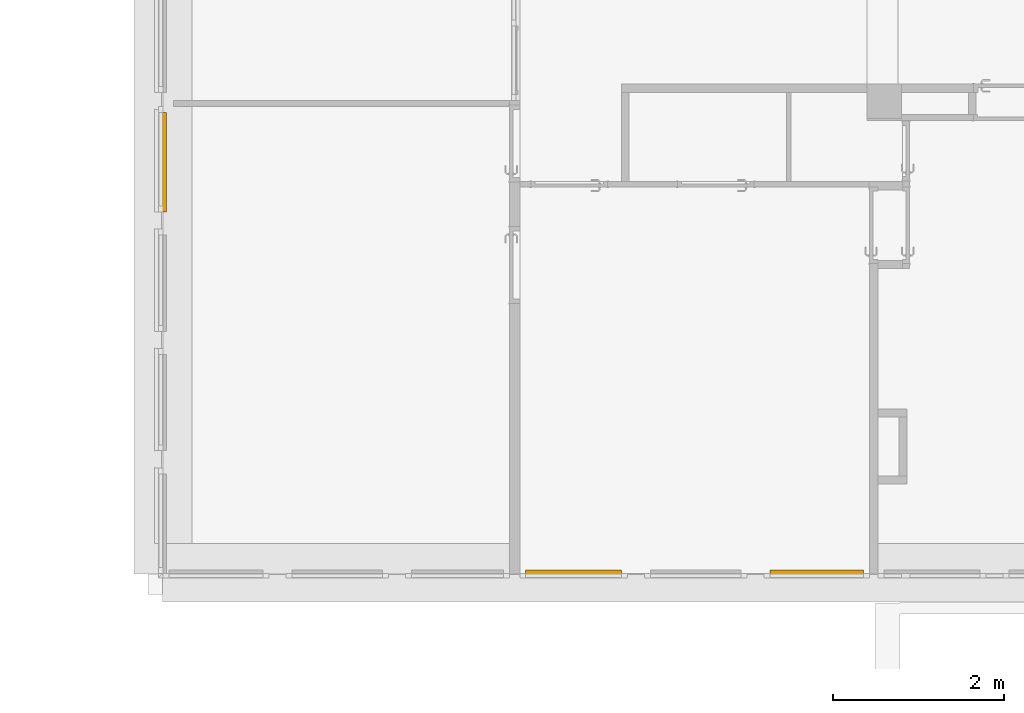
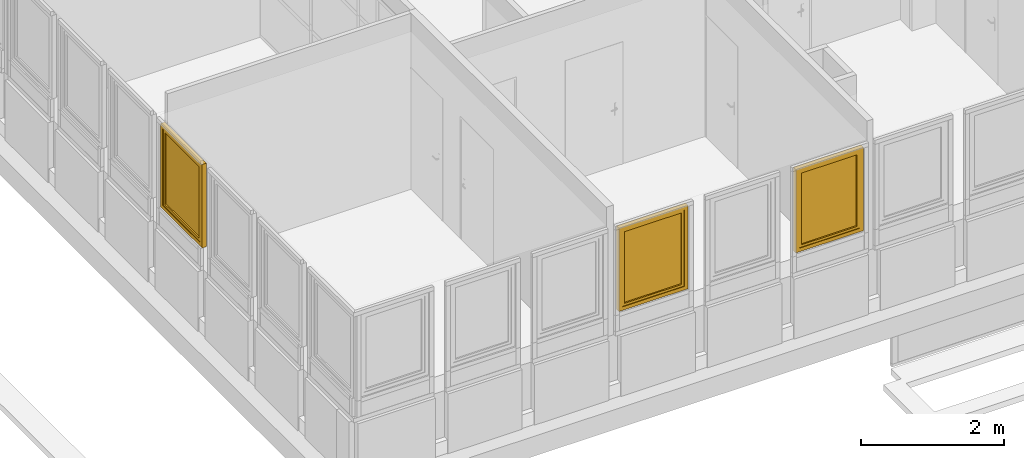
# One storey, part 89 of 97: 3 windows, 3 elements without a shape of their own.
"""IFC4 building model written with IfcOpenShell, lengths in metres."""

from ifc_helpers import new_model, entity, si_unit, converted_unit, derived_unit, direction, frame, origin, place, context, subcontext, project, spatial, polygons, source, transform, mapped, material, material_list, constituent, constituent_set, type_object, type_shapes, element, aggregate, save


model = new_model("IFC4")

# Units and contexts
model_context = context("Model", 3, precision=1e-05, world=origin(), true_north=direction((6.12303176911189e-17, 1.0)))
body_context = subcontext(model_context, "Body", "Model", "MODEL_VIEW")
ifc_project = project(units=[si_unit("LENGTHUNIT", "METRE"), si_unit("AREAUNIT", "SQUARE_METRE"), si_unit("VOLUMEUNIT", "CUBIC_METRE"), converted_unit("PLANEANGLEUNIT", "DEGREE", entity("IfcRatioMeasure", 0.0174532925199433), si_unit("PLANEANGLEUNIT", "RADIAN"), dimensions=[0, 0, 0, 0, 0, 0, 0]), si_unit("MASSUNIT", "GRAM", prefix="KILO"), derived_unit("MASSDENSITYUNIT", [(si_unit("MASSUNIT", "GRAM", prefix="KILO"), 1), (si_unit("LENGTHUNIT", "METRE"), -3)]), derived_unit("MOMENTOFINERTIAUNIT", [(si_unit("LENGTHUNIT", "METRE"), 4)]), si_unit("TIMEUNIT", "SECOND"), si_unit("FREQUENCYUNIT", "HERTZ"), si_unit("THERMODYNAMICTEMPERATUREUNIT", "DEGREE_CELSIUS"), derived_unit("THERMALTRANSMITTANCEUNIT", [(si_unit("MASSUNIT", "GRAM", prefix="KILO"), 1), (si_unit("THERMODYNAMICTEMPERATUREUNIT", "KELVIN"), -1), (si_unit("TIMEUNIT", "SECOND"), -3)]), derived_unit("VOLUMETRICFLOWRATEUNIT", [(si_unit("LENGTHUNIT", "METRE"), 3), (si_unit("TIMEUNIT", "SECOND"), -1)]), si_unit("ELECTRICCURRENTUNIT", "AMPERE"), si_unit("ELECTRICVOLTAGEUNIT", "VOLT"), si_unit("POWERUNIT", "WATT"), si_unit("FORCEUNIT", "NEWTON", prefix="KILO"), si_unit("ILLUMINANCEUNIT", "LUX"), si_unit("LUMINOUSFLUXUNIT", "LUMEN"), si_unit("LUMINOUSINTENSITYUNIT", "CANDELA"), derived_unit("USERDEFINED", [(si_unit("MASSUNIT", "GRAM", prefix="KILO"), -1), (si_unit("LENGTHUNIT", "METRE"), -2), (si_unit("TIMEUNIT", "SECOND"), 3), (si_unit("LUMINOUSFLUXUNIT", "LUMEN"), 1)]), derived_unit("LINEARVELOCITYUNIT", [(si_unit("LENGTHUNIT", "METRE"), 1), (si_unit("TIMEUNIT", "SECOND"), -1)]), si_unit("PRESSUREUNIT", "PASCAL"), derived_unit("USERDEFINED", [(si_unit("LENGTHUNIT", "METRE"), -2), (si_unit("MASSUNIT", "GRAM", prefix="KILO"), 1), (si_unit("TIMEUNIT", "SECOND"), -2)]), derived_unit("LINEARFORCEUNIT", [(si_unit("MASSUNIT", "GRAM", prefix="KILO"), 1), (si_unit("LENGTHUNIT", "METRE"), 1), (si_unit("TIMEUNIT", "SECOND"), -2), (si_unit("LENGTHUNIT", "METRE"), -1)]), derived_unit("PLANARFORCEUNIT", [(si_unit("MASSUNIT", "GRAM", prefix="KILO"), 1), (si_unit("LENGTHUNIT", "METRE"), 1), (si_unit("TIMEUNIT", "SECOND"), -2), (si_unit("LENGTHUNIT", "METRE"), -2)])], contexts=[model_context])

# Site, building, storey
site_placement = place(None, origin())
site = spatial("IfcSite", under=ifc_project, at=site_placement, Name="Default", CompositionType="ELEMENT")
building_placement = place(site_placement, origin())
building = spatial("IfcBuilding", under=site, at=building_placement, Name="HOTEL CONSULAIRE BOULOGNE SUR MER", CompositionType="ELEMENT")
storey_placement = place(building_placement, frame((0.0, 0.0, 3.62152697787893)))
storey = spatial("IfcBuildingStorey", under=building, at=storey_placement, Name="Niveau 1", CompositionType="ELEMENT", Elevation=3.62152697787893)

# Curtain wall, window
curtain_wall_type = type_object("IfcCurtainWallType", Name="Mur-rideau:Simple panneau", PredefinedType="NOTDEFINED")
curtain_wall_1_placement = place(storey_placement, frame((0.0, 0.0, -3.62152697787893)))
curtain_wall_1 = element("IfcCurtainWall", 1, at=curtain_wall_1_placement, inside=storey, type_object=curtain_wall_type, Name="Mur-rideau:Simple panneau", ObjectType="Mur-rideau:Simple panneau", PredefinedType="NOTDEFINED")
ifc_material_1 = material(Name="PVC - Blanc", Category="Plastique")
ifc_constituent_1 = constituent(ifc_material_1, Name="PVC - Blanc", Category="Matériaux")
ifc_material_2 = material(Name="Fenêtre - Vitrage", Category="Verre")
ifc_constituent_2 = constituent(ifc_material_2, Name="Fenêtre - Vitrage", Category="Matériaux")
ifc_constituent_set_1 = constituent_set(constituents=[ifc_constituent_1, ifc_constituent_2], Name="MaterialConstituentSet")
ifc_material_list_1 = material_list([ifc_material_1, ifc_material_1])
window_type_1 = type_object("IfcWindowType", Name="MR 1 Vantail:MR 1 Vantail", PartitioningType="NOTDEFINED", PredefinedType="WINDOW", material=ifc_material_list_1)
shared_shape_1 = source(origin(), body_context, "Body", "Tessellation", [
    polygons([(-0.511741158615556, -0.0492408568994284, 0.472033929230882), (-0.500449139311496, -0.0492408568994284, 0.472033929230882), (-0.499061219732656, -0.0492408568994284, 0.470646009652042), (-0.499061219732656, -0.0492408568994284, 0.459332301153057), (-0.500427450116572, -0.0492408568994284, 0.457966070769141), (-0.511762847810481, -0.0492408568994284, 0.457966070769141), (-0.513129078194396, -0.0492408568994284, 0.459332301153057), (-0.513129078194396, -0.0492408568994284, 0.470646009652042), (-0.513129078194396, -0.0615795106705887, 0.470646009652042), (-0.511741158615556, -0.0621544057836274, 0.472033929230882), (-0.513129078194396, -0.0568932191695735, 0.459332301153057), (-0.513129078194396, -0.0635731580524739, 0.452652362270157), (-0.513129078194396, -0.0635731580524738, 0.370000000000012), (-0.513129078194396, -0.0748868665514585, 0.370000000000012), (-0.513129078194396, -0.0748868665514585, 0.457338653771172), (-0.511762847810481, -0.0563273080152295, 0.457966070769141), (-0.500427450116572, -0.0563273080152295, 0.457966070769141), (-0.499061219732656, -0.0568932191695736, 0.459332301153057), (-0.499061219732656, -0.0615795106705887, 0.470646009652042), (-0.499061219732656, -0.0748868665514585, 0.457338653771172), (-0.499061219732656, -0.0748868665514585, 0.370000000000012), (-0.499061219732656, -0.063573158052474, 0.370000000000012), (-0.499061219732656, -0.0635731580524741, 0.452652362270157), (-0.500449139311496, -0.0621544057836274, 0.472033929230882), (-0.511741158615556, -0.0762747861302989, 0.457913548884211), (-0.511762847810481, -0.0622069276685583, 0.452086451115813), (-0.500427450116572, -0.0622069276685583, 0.452086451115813), (-0.500449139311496, -0.0762747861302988, 0.457913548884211), (-0.511741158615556, -0.0762747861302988, 0.370000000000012), (-0.511762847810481, -0.0622069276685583, 0.370000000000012), (-0.500427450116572, -0.0622069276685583, 0.370000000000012), (-0.500449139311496, -0.0762747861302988, 0.370000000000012)], [[[6, 7, 8, 1, 2, 3, 4, 5]], [[30, 26, 27, 31]], [[9, 10, 1, 8]], [[11, 12, 13, 14, 15, 9, 8, 7]], [[16, 11, 7, 6]], [[16, 6, 5, 17]], [[31, 22, 21, 32, 29, 14, 13, 30]], [[17, 5, 4, 18]], [[3, 19, 20, 21, 22, 23, 18, 4]], [[19, 3, 2, 24]], [[24, 2, 1, 10]], [[15, 25, 10, 9]], [[26, 12, 11, 16]], [[27, 26, 16, 17]], [[27, 17, 18, 23]], [[20, 19, 24, 28]], [[28, 24, 10, 25]], [[29, 25, 15, 14]], [[13, 12, 26, 30]], [[22, 31, 27, 23]], [[32, 21, 20, 28]], [[32, 28, 25, 29]]], closed=True),
    polygons([(-0.51309514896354, -0.0432408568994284, 0.490000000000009), (-0.499095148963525, -0.0432408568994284, 0.490000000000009), (-0.494095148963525, -0.0432408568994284, 0.48500000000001), (-0.494095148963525, -0.0432408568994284, 0.414999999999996), (-0.499095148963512, -0.0432408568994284, 0.410000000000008), (-0.51309514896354, -0.0432408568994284, 0.410000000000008), (-0.518095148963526, -0.0432408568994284, 0.414999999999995), (-0.518095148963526, -0.0432408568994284, 0.48500000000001), (-0.51309514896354, -0.0492408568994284, 0.490000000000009), (-0.518095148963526, -0.0492408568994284, 0.48500000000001), (-0.518095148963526, -0.0492408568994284, 0.414999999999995), (-0.51309514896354, -0.0492408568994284, 0.410000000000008), (-0.499095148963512, -0.0492408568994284, 0.410000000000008), (-0.494095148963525, -0.0492408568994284, 0.414999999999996), (-0.494095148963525, -0.0492408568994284, 0.48500000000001), (-0.499095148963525, -0.0492408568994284, 0.490000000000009)], [[[2, 3, 4, 5, 6, 7, 8, 1]], [[13, 14, 15, 16, 9, 10, 11, 12]], [[9, 1, 8, 10]], [[10, 8, 7, 11]], [[11, 7, 6, 12]], [[12, 6, 5, 13]], [[13, 5, 4, 14]], [[15, 14, 4, 3]], [[15, 3, 2, 16]], [[16, 2, 1, 9]]], closed=True),
    polygons([(0.481095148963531, -0.0192408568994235, 1.32586048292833), (-0.481095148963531, -0.0192408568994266, 1.32586048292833), (-0.481095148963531, -0.0192408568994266, 0.1), (0.481095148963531, -0.0192408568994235, 0.1), (0.481095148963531, -0.0072408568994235, 1.32586048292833), (0.481095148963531, -0.0072408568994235, 0.1), (-0.481095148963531, -0.00724085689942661, 0.1), (-0.481095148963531, -0.00724085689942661, 1.32586048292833)], [[[4, 1, 2, 3]], [[7, 8, 5, 6]], [[2, 1, 5, 8]], [[3, 2, 8, 7]], [[4, 3, 7, 6]], [[1, 4, 6, 5]]], closed=True),
    polygons([(-0.531095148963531, 0.0167591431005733, 1.37586048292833), (-0.531095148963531, -0.043240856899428, 1.37586048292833), (0.53109514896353, -0.043240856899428, 1.37586048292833), (0.53109514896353, 0.0167591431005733, 1.37586048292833), (-0.481095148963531, -0.043240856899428, 1.32586048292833), (-0.481095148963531, 0.0167591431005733, 1.32586048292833), (0.481095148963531, 0.0167591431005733, 1.32586048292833), (0.481095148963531, -0.043240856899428, 1.32586048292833), (0.53109514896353, -0.043240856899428, 0.0500000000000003), (0.53109514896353, 0.0167591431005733, 0.0500000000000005), (0.481095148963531, 0.0167591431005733, 0.1), (0.481095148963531, -0.043240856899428, 0.1), (-0.531095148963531, -0.043240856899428, 0.0500000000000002), (-0.531095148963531, 0.0167591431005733, 0.0500000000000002), (-0.481095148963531, 0.0167591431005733, 0.1), (-0.481095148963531, -0.043240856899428, 0.1)], [[[1, 2, 3, 4]], [[12, 11, 15, 16]], [[5, 6, 7, 8]], [[10, 9, 13, 14]], [[4, 3, 9, 10]], [[16, 15, 6, 5]], [[8, 7, 11, 12]], [[14, 13, 2, 1]], [[9, 3, 2, 13], [16, 5, 8, 12]], [[14, 1, 4, 10], [11, 7, 6, 15]]], closed=True),
    polygons([(-0.52109514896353, 0.016759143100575, 1.36586048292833), (-0.52109514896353, 0.0267591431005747, 1.36586048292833), (0.52109514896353, 0.0267591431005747, 1.36586048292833), (0.52109514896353, 0.016759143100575, 1.36586048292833), (-0.53109514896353, -0.0432408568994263, 1.37586048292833), (-0.53109514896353, 0.016759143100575, 1.37586048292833), (0.53109514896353, 0.016759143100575, 1.37586048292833), (0.53109514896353, -0.0432408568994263, 1.37586048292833), (-0.58109514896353, 0.0267591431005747, 1.42586048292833), (-0.58109514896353, -0.0432408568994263, 1.42586048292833), (0.58109514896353, -0.0432408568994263, 1.42586048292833), (0.58109514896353, 0.0267591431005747, 1.42586048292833), (0.52109514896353, 0.0267591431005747, 0.0600000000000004), (0.52109514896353, 0.016759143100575, 0.0600000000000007), (0.53109514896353, 0.016759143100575, 0.0500000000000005), (0.53109514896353, -0.0432408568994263, 0.0500000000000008), (0.58109514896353, -0.0432408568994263, 5.41433564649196e-16), (0.58109514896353, 0.0267591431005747, 5.41433564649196e-16), (-0.52109514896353, 0.0267591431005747, 0.0600000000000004), (-0.52109514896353, 0.016759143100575, 0.0600000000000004), (-0.53109514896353, 0.016759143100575, 0.0500000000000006), (-0.53109514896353, -0.0432408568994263, 0.0500000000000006), (-0.58109514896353, -0.0432408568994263, 6.09112760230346e-16), (-0.58109514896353, 0.0267591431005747, 6.09112760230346e-16)], [[[1, 2, 3, 4]], [[5, 6, 7, 8]], [[18, 17, 23, 24]], [[9, 10, 11, 12]], [[14, 13, 19, 20]], [[16, 15, 21, 22]], [[4, 3, 13, 14]], [[8, 7, 15, 16]], [[24, 23, 10, 9]], [[12, 11, 17, 18]], [[20, 19, 2, 1]], [[22, 21, 6, 5]], [[24, 9, 12, 18], [13, 3, 2, 19]], [[15, 7, 6, 21], [20, 1, 4, 14]], [[17, 11, 10, 23], [22, 5, 8, 16]]], closed=True),
])
type_shapes(window_type_1, [shared_shape_1])
window_1_placement = place(curtain_wall_1_placement, frame((-13.7870998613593, -24.7303547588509, 4.79613951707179), z_axis=(0.0, 0.0, 1.0), x_axis=(0.0, 1.0, 0.0)))
window_1 = element("IfcWindow", 2, at=window_1_placement, type_object=window_type_1, material=ifc_constituent_set_1, Name="MR 1 Vantail:MR 1 Vantail", ObjectType="MR 1 Vantail:MR 1 Vantail", OverallHeight=1.42586048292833, OverallWidth=1.16219029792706, PartitioningType="NOTDEFINED", PredefinedType="WINDOW", context=body_context, shape_type="MappedRepresentation", body=[
    mapped(shared_shape_1, transform((0.0, 0.0, 0.0), scale=1.0)),
])
aggregate(curtain_wall_1, [window_1])

curtain_wall_2_placement = place(storey_placement, frame((0.0, 0.0, -3.62152697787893)))
curtain_wall_2 = element("IfcCurtainWall", 3, at=curtain_wall_2_placement, inside=storey, type_object=curtain_wall_type, Name="Mur-rideau:Simple panneau", ObjectType="Mur-rideau:Simple panneau", PredefinedType="NOTDEFINED")
ifc_constituent_3 = constituent(ifc_material_1, Name="PVC - Blanc", Category="Matériaux")
ifc_constituent_4 = constituent(ifc_material_2, Name="Fenêtre - Vitrage", Category="Matériaux")
ifc_constituent_set_2 = constituent_set(constituents=[ifc_constituent_3, ifc_constituent_4], Name="MaterialConstituentSet")
ifc_material_list_2 = material_list([ifc_material_1, ifc_material_1])
window_type_2 = type_object("IfcWindowType", Name="MR 1 Vantail:MR 1 Vantail", PartitioningType="NOTDEFINED", PredefinedType="WINDOW", material=ifc_material_list_2)
shared_shape_2 = source(origin(), body_context, "Body", "Tessellation", [
    polygons([(-0.492137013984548, -0.0492408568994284, 0.472033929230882), (-0.480844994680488, -0.0492408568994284, 0.472033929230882), (-0.479457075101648, -0.0492408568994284, 0.470646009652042), (-0.479457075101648, -0.0492408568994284, 0.459332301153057), (-0.480823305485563, -0.0492408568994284, 0.457966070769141), (-0.492158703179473, -0.0492408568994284, 0.457966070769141), (-0.493524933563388, -0.0492408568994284, 0.459332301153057), (-0.493524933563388, -0.0492408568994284, 0.470646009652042), (-0.493524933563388, -0.0615795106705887, 0.470646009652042), (-0.492137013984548, -0.0621544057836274, 0.472033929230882), (-0.493524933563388, -0.0568932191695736, 0.459332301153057), (-0.493524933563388, -0.063573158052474, 0.452652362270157), (-0.493524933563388, -0.0635731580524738, 0.370000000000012), (-0.493524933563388, -0.0748868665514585, 0.370000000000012), (-0.493524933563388, -0.0748868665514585, 0.457338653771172), (-0.492158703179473, -0.0563273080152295, 0.457966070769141), (-0.480823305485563, -0.0563273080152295, 0.457966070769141), (-0.479457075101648, -0.0568932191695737, 0.459332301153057), (-0.479457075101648, -0.0615795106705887, 0.470646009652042), (-0.479457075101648, -0.0748868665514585, 0.457338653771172), (-0.479457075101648, -0.0748868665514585, 0.370000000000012), (-0.479457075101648, -0.0635731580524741, 0.370000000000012), (-0.479457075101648, -0.0635731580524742, 0.452652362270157), (-0.480844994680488, -0.0621544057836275, 0.472033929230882), (-0.492137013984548, -0.0762747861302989, 0.457913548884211), (-0.492158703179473, -0.0622069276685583, 0.452086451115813), (-0.480823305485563, -0.0622069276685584, 0.452086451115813), (-0.480844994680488, -0.0762747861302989, 0.457913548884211), (-0.492137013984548, -0.0762747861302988, 0.370000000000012), (-0.492158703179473, -0.0622069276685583, 0.370000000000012), (-0.480823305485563, -0.0622069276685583, 0.370000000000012), (-0.480844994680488, -0.0762747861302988, 0.370000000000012)], [[[6, 7, 8, 1, 2, 3, 4, 5]], [[30, 26, 27, 31]], [[9, 10, 1, 8]], [[11, 12, 13, 14, 15, 9, 8, 7]], [[16, 11, 7, 6]], [[16, 6, 5, 17]], [[31, 22, 21, 32, 29, 14, 13, 30]], [[17, 5, 4, 18]], [[3, 19, 20, 21, 22, 23, 18, 4]], [[19, 3, 2, 24]], [[24, 2, 1, 10]], [[15, 25, 10, 9]], [[26, 12, 11, 16]], [[27, 26, 16, 17]], [[27, 17, 18, 23]], [[20, 19, 24, 28]], [[28, 24, 10, 25]], [[29, 25, 15, 14]], [[13, 12, 26, 30]], [[22, 31, 27, 23]], [[32, 21, 20, 28]], [[32, 28, 25, 29]]], closed=True),
    polygons([(-0.493491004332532, -0.0432408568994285, 0.490000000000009), (-0.479491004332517, -0.0432408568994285, 0.490000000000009), (-0.474491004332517, -0.0432408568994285, 0.48500000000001), (-0.474491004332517, -0.0432408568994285, 0.414999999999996), (-0.479491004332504, -0.0432408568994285, 0.410000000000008), (-0.493491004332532, -0.0432408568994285, 0.410000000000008), (-0.498491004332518, -0.0432408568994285, 0.414999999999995), (-0.498491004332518, -0.0432408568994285, 0.48500000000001), (-0.493491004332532, -0.0492408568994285, 0.490000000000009), (-0.498491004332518, -0.0492408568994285, 0.48500000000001), (-0.498491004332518, -0.0492408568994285, 0.414999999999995), (-0.493491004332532, -0.0492408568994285, 0.410000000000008), (-0.479491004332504, -0.0492408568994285, 0.410000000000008), (-0.474491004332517, -0.0492408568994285, 0.414999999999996), (-0.474491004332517, -0.0492408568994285, 0.48500000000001), (-0.479491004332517, -0.0492408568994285, 0.490000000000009)], [[[2, 3, 4, 5, 6, 7, 8, 1]], [[13, 14, 15, 16, 9, 10, 11, 12]], [[9, 1, 8, 10]], [[10, 8, 7, 11]], [[11, 7, 6, 12]], [[12, 6, 5, 13]], [[13, 5, 4, 14]], [[15, 14, 4, 3]], [[15, 3, 2, 16]], [[16, 2, 1, 9]]], closed=True),
    polygons([(0.461491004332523, -0.0192408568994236, 1.32586048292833), (-0.461491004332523, -0.0192408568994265, 1.32586048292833), (-0.461491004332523, -0.0192408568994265, 0.0999999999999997), (0.461491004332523, -0.0192408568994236, 0.0999999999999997), (0.461491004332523, -0.00724085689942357, 1.32586048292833), (0.461491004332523, -0.00724085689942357, 0.0999999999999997), (-0.461491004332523, -0.00724085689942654, 0.0999999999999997), (-0.461491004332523, -0.00724085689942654, 1.32586048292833)], [[[4, 1, 2, 3]], [[7, 8, 5, 6]], [[2, 1, 5, 8]], [[3, 2, 8, 7]], [[4, 3, 7, 6]], [[1, 4, 6, 5]]], closed=True),
    polygons([(-0.511491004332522, 0.0167591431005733, 1.37586048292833), (-0.511491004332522, -0.043240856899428, 1.37586048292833), (0.511491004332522, -0.043240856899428, 1.37586048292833), (0.511491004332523, 0.0167591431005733, 1.37586048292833), (-0.461491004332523, -0.043240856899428, 1.32586048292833), (-0.461491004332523, 0.0167591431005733, 1.32586048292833), (0.461491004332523, 0.0167591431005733, 1.32586048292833), (0.461491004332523, -0.043240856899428, 1.32586048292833), (0.511491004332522, -0.043240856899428, 0.0500000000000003), (0.511491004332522, 0.0167591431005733, 0.0500000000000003), (0.461491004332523, 0.0167591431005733, 0.0999999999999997), (0.461491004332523, -0.043240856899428, 0.0999999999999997), (-0.511491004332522, -0.043240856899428, 0.0500000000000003), (-0.511491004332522, 0.0167591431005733, 0.0500000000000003), (-0.461491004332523, 0.0167591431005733, 0.0999999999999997), (-0.461491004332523, -0.043240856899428, 0.0999999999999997)], [[[1, 2, 3, 4]], [[12, 11, 15, 16]], [[5, 6, 7, 8]], [[10, 9, 13, 14]], [[4, 3, 9, 10]], [[16, 15, 6, 5]], [[8, 7, 11, 12]], [[14, 13, 2, 1]], [[9, 3, 2, 13], [16, 5, 8, 12]], [[14, 1, 4, 10], [11, 7, 6, 15]]], closed=True),
    polygons([(-0.501491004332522, 0.016759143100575, 1.36586048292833), (-0.501491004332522, 0.0267591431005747, 1.36586048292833), (0.501491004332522, 0.0267591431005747, 1.36586048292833), (0.501491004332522, 0.016759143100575, 1.36586048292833), (-0.511491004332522, -0.0432408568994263, 1.37586048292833), (-0.511491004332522, 0.016759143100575, 1.37586048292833), (0.511491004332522, 0.016759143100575, 1.37586048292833), (0.511491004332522, -0.0432408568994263, 1.37586048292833), (-0.561491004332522, 0.0267591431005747, 1.42586048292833), (-0.561491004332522, -0.0432408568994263, 1.42586048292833), (0.561491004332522, -0.0432408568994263, 1.42586048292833), (0.561491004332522, 0.0267591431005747, 1.42586048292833), (0.501491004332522, 0.0267591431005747, 0.0600000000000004), (0.501491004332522, 0.016759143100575, 0.0600000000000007), (0.511491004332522, 0.016759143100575, 0.0500000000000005), (0.511491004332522, -0.0432408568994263, 0.0500000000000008), (0.561491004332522, -0.0432408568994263, 5.41433564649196e-16), (0.561491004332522, 0.0267591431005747, 5.41433564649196e-16), (-0.501491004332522, 0.0267591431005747, 0.0600000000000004), (-0.501491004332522, 0.016759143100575, 0.0600000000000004), (-0.511491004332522, 0.016759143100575, 0.0500000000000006), (-0.511491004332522, -0.0432408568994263, 0.0500000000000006), (-0.561491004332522, -0.0432408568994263, 5.41433564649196e-16), (-0.561491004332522, 0.0267591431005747, 5.41433564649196e-16)], [[[1, 2, 3, 4]], [[5, 6, 7, 8]], [[18, 17, 23, 24]], [[9, 10, 11, 12]], [[14, 13, 19, 20]], [[16, 15, 21, 22]], [[4, 3, 13, 14]], [[8, 7, 15, 16]], [[24, 23, 10, 9]], [[12, 11, 17, 18]], [[20, 19, 2, 1]], [[22, 21, 6, 5]], [[24, 9, 12, 18], [13, 3, 2, 19]], [[15, 7, 6, 21], [20, 1, 4, 14]], [[17, 11, 10, 23], [22, 5, 8, 16]]], closed=True),
])
type_shapes(window_type_2, [shared_shape_2])
window_2_placement = place(curtain_wall_2_placement, frame((-8.97291097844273, -29.5501047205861, 4.79613951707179), z_axis=(0.0, 0.0, 1.0), x_axis=(-1.0, 0.0, 0.0)))
window_2 = element("IfcWindow", 4, at=window_2_placement, type_object=window_type_2, material=ifc_constituent_set_2, Name="MR 1 Vantail:MR 1 Vantail", ObjectType="MR 1 Vantail:MR 1 Vantail", OverallHeight=1.42586048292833, OverallWidth=1.12298200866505, PartitioningType="NOTDEFINED", PredefinedType="WINDOW", context=body_context, shape_type="MappedRepresentation", body=[
    mapped(shared_shape_2, transform((0.0, 0.0, 0.0), scale=1.0)),
])
aggregate(curtain_wall_2, [window_2])

curtain_wall_3_placement = place(storey_placement, frame((0.0, 0.0, -3.62152697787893)))
curtain_wall_3 = element("IfcCurtainWall", 5, at=curtain_wall_3_placement, inside=storey, type_object=curtain_wall_type, Name="Mur-rideau:Simple panneau", ObjectType="Mur-rideau:Simple panneau", PredefinedType="NOTDEFINED")
ifc_constituent_5 = constituent(ifc_material_1, Name="PVC - Blanc", Category="Matériaux")
ifc_constituent_6 = constituent(ifc_material_2, Name="Fenêtre - Vitrage", Category="Matériaux")
ifc_constituent_set_3 = constituent_set(constituents=[ifc_constituent_5, ifc_constituent_6], Name="MaterialConstituentSet")
ifc_material_list_3 = material_list([ifc_material_1, ifc_material_1])
window_type_3 = type_object("IfcWindowType", Name="MR 1 Vantail:MR 1 Vantail", PartitioningType="NOTDEFINED", PredefinedType="WINDOW", material=ifc_material_list_3)
shared_shape_3 = source(origin(), body_context, "Body", "Tessellation", [
    polygons([(-0.477784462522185, -0.0492408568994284, 0.472033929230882), (-0.466492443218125, -0.0492408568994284, 0.472033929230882), (-0.465104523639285, -0.0492408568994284, 0.470646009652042), (-0.465104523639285, -0.0492408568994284, 0.459332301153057), (-0.4664707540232, -0.0492408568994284, 0.457966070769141), (-0.47780615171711, -0.0492408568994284, 0.457966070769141), (-0.479172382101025, -0.0492408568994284, 0.459332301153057), (-0.479172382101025, -0.0492408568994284, 0.470646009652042), (-0.479172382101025, -0.0615795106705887, 0.470646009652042), (-0.477784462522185, -0.0621544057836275, 0.472033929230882), (-0.479172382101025, -0.0568932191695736, 0.459332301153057), (-0.479172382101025, -0.063573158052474, 0.452652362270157), (-0.479172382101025, -0.0635731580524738, 0.370000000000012), (-0.479172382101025, -0.0748868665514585, 0.370000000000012), (-0.479172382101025, -0.0748868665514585, 0.457338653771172), (-0.47780615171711, -0.0563273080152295, 0.457966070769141), (-0.4664707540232, -0.0563273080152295, 0.457966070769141), (-0.465104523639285, -0.0568932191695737, 0.459332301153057), (-0.465104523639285, -0.0615795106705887, 0.470646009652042), (-0.465104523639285, -0.0748868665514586, 0.457338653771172), (-0.465104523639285, -0.0748868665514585, 0.370000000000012), (-0.465104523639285, -0.0635731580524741, 0.370000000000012), (-0.465104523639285, -0.0635731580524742, 0.452652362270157), (-0.466492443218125, -0.0621544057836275, 0.472033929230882), (-0.477784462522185, -0.0762747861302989, 0.457913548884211), (-0.47780615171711, -0.0622069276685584, 0.452086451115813), (-0.4664707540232, -0.0622069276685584, 0.452086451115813), (-0.466492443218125, -0.0762747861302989, 0.457913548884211), (-0.477784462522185, -0.0762747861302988, 0.370000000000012), (-0.47780615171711, -0.0622069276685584, 0.370000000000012), (-0.4664707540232, -0.0622069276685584, 0.370000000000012), (-0.466492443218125, -0.0762747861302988, 0.370000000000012)], [[[6, 7, 8, 1, 2, 3, 4, 5]], [[30, 26, 27, 31]], [[9, 10, 1, 8]], [[11, 12, 13, 14, 15, 9, 8, 7]], [[16, 11, 7, 6]], [[16, 6, 5, 17]], [[31, 22, 21, 32, 29, 14, 13, 30]], [[17, 5, 4, 18]], [[3, 19, 20, 21, 22, 23, 18, 4]], [[19, 3, 2, 24]], [[24, 2, 1, 10]], [[15, 25, 10, 9]], [[26, 12, 11, 16]], [[27, 26, 16, 17]], [[27, 17, 18, 23]], [[20, 19, 24, 28]], [[28, 24, 10, 25]], [[29, 25, 15, 14]], [[13, 12, 26, 30]], [[22, 31, 27, 23]], [[32, 21, 20, 28]], [[32, 28, 25, 29]]], closed=True),
    polygons([(-0.479138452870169, -0.0432408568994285, 0.490000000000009), (-0.465138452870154, -0.0432408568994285, 0.490000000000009), (-0.460138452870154, -0.0432408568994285, 0.48500000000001), (-0.460138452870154, -0.0432408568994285, 0.414999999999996), (-0.465138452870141, -0.0432408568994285, 0.410000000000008), (-0.479138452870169, -0.0432408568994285, 0.410000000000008), (-0.484138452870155, -0.0432408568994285, 0.414999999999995), (-0.484138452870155, -0.0432408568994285, 0.48500000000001), (-0.479138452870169, -0.0492408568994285, 0.490000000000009), (-0.484138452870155, -0.0492408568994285, 0.48500000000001), (-0.484138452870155, -0.0492408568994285, 0.414999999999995), (-0.479138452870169, -0.0492408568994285, 0.410000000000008), (-0.465138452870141, -0.0492408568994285, 0.410000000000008), (-0.460138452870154, -0.0492408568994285, 0.414999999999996), (-0.460138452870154, -0.0492408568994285, 0.48500000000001), (-0.465138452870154, -0.0492408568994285, 0.490000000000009)], [[[2, 3, 4, 5, 6, 7, 8, 1]], [[13, 14, 15, 16, 9, 10, 11, 12]], [[9, 1, 8, 10]], [[10, 8, 7, 11]], [[11, 7, 6, 12]], [[12, 6, 5, 13]], [[13, 5, 4, 14]], [[15, 14, 4, 3]], [[15, 3, 2, 16]], [[16, 2, 1, 9]]], closed=True),
    polygons([(0.44713845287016, -0.0192408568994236, 1.32586048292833), (-0.44713845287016, -0.0192408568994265, 1.32586048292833), (-0.44713845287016, -0.0192408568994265, 0.1), (0.44713845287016, -0.0192408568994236, 0.1), (0.447138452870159, -0.00724085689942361, 1.32586048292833), (0.447138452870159, -0.00724085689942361, 0.1), (-0.44713845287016, -0.0072408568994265, 0.1), (-0.44713845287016, -0.0072408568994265, 1.32586048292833)], [[[4, 1, 2, 3]], [[7, 8, 5, 6]], [[2, 1, 5, 8]], [[3, 2, 8, 7]], [[4, 3, 7, 6]], [[1, 4, 6, 5]]], closed=True),
    polygons([(-0.49713845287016, 0.0167591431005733, 1.37586048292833), (-0.49713845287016, -0.043240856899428, 1.37586048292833), (0.497138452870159, -0.043240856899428, 1.37586048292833), (0.497138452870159, 0.0167591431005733, 1.37586048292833), (-0.44713845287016, -0.043240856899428, 1.32586048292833), (-0.44713845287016, 0.0167591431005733, 1.32586048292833), (0.44713845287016, 0.0167591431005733, 1.32586048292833), (0.44713845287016, -0.043240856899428, 1.32586048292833), (0.497138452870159, -0.043240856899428, 0.0500000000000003), (0.497138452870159, 0.0167591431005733, 0.0500000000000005), (0.44713845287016, 0.0167591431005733, 0.1), (0.44713845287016, -0.043240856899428, 0.1), (-0.49713845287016, -0.043240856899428, 0.0500000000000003), (-0.49713845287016, 0.0167591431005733, 0.0500000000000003), (-0.44713845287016, 0.0167591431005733, 0.1), (-0.44713845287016, -0.043240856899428, 0.1)], [[[1, 2, 3, 4]], [[12, 11, 15, 16]], [[5, 6, 7, 8]], [[10, 9, 13, 14]], [[4, 3, 9, 10]], [[16, 15, 6, 5]], [[8, 7, 11, 12]], [[14, 13, 2, 1]], [[9, 3, 2, 13], [16, 5, 8, 12]], [[14, 1, 4, 10], [11, 7, 6, 15]]], closed=True),
    polygons([(-0.487138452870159, 0.016759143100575, 1.36586048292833), (-0.487138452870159, 0.0267591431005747, 1.36586048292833), (0.487138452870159, 0.0267591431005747, 1.36586048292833), (0.487138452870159, 0.016759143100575, 1.36586048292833), (-0.497138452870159, -0.0432408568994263, 1.37586048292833), (-0.497138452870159, 0.016759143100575, 1.37586048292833), (0.497138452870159, 0.016759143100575, 1.37586048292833), (0.497138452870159, -0.0432408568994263, 1.37586048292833), (-0.547138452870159, 0.0267591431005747, 1.42586048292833), (-0.547138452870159, -0.0432408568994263, 1.42586048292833), (0.547138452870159, -0.0432408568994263, 1.42586048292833), (0.547138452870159, 0.0267591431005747, 1.42586048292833), (0.487138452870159, 0.0267591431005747, 0.0600000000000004), (0.487138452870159, 0.016759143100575, 0.0600000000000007), (0.497138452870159, 0.016759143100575, 0.0500000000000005), (0.497138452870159, -0.0432408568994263, 0.0500000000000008), (0.547138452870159, -0.0432408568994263, 5.41433564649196e-16), (0.547138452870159, 0.0267591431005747, 5.41433564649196e-16), (-0.487138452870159, 0.0267591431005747, 0.0600000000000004), (-0.487138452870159, 0.016759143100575, 0.0600000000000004), (-0.497138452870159, 0.016759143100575, 0.0500000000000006), (-0.497138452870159, -0.0432408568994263, 0.0500000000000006), (-0.547138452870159, -0.0432408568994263, 5.41433564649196e-16), (-0.547138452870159, 0.0267591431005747, 5.41433564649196e-16)], [[[1, 2, 3, 4]], [[5, 6, 7, 8]], [[18, 17, 23, 24]], [[9, 10, 11, 12]], [[14, 13, 19, 20]], [[16, 15, 21, 22]], [[4, 3, 13, 14]], [[8, 7, 15, 16]], [[24, 23, 10, 9]], [[12, 11, 17, 18]], [[20, 19, 2, 1]], [[22, 21, 6, 5]], [[24, 9, 12, 18], [13, 3, 2, 19]], [[15, 7, 6, 21], [20, 1, 4, 14]], [[17, 11, 10, 23], [22, 5, 8, 16]]], closed=True),
])
type_shapes(window_type_3, [shared_shape_3])
window_3_placement = place(curtain_wall_3_placement, frame((-6.12428152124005, -29.5501047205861, 4.79613951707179), z_axis=(0.0, 0.0, 1.0), x_axis=(-1.0, 0.0, 0.0)))
window_3 = element("IfcWindow", 6, at=window_3_placement, type_object=window_type_3, material=ifc_constituent_set_3, Name="MR 1 Vantail:MR 1 Vantail", ObjectType="MR 1 Vantail:MR 1 Vantail", OverallHeight=1.42586048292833, OverallWidth=1.09427690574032, PartitioningType="NOTDEFINED", PredefinedType="WINDOW", context=body_context, shape_type="MappedRepresentation", body=[
    mapped(shared_shape_3, transform((0.0, 0.0, 0.0), scale=1.0)),
])
aggregate(curtain_wall_3, [window_3])

save(model, "model.ifc")
